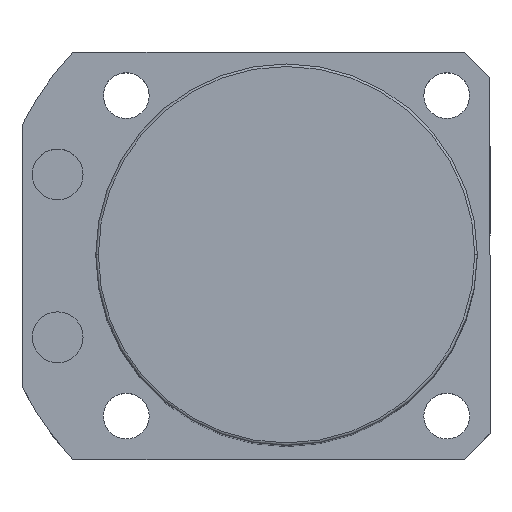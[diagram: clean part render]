
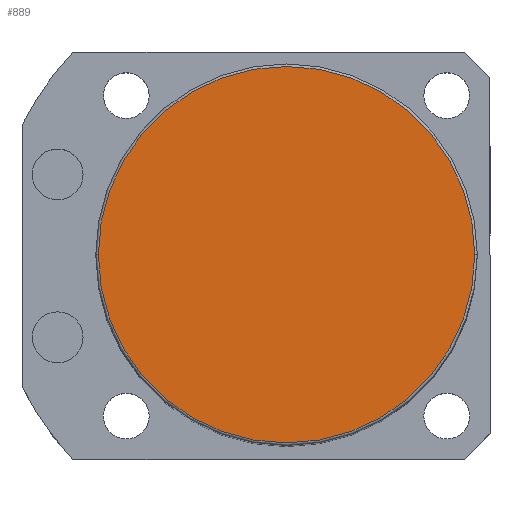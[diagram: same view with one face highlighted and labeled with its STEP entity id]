
A CAD part, top view. The second image highlights one B-rep face of the part: STEP entity #889.
In plain terms, the highlighted planar face has unit normal (0, 0, 1).
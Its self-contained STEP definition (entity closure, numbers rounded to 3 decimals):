
#87 = ORIENTED_EDGE ( 'NONE', *, *, #1120, .T. ) ;
#363 = EDGE_CURVE ( 'NONE', #1824, #1434, #2510, .T. ) ;
#408 = DIRECTION ( 'NONE',  ( 1., 0., 0. ) ) ;
#889 = ADVANCED_FACE ( 'NONE', ( #1950 ), #2269, .T. ) ;
#912 = EDGE_LOOP ( 'NONE', ( #1490, #87 ) ) ;
#964 = CARTESIAN_POINT ( 'NONE',  ( 0., 0., 150.5 ) ) ;
#1057 = CARTESIAN_POINT ( 'NONE',  ( 0., 0., 150.5 ) ) ;
#1084 = DIRECTION ( 'NONE',  ( 0., 0., 1. ) ) ;
#1120 = EDGE_CURVE ( 'NONE', #1434, #1824, #2819, .T. ) ;
#1434 = VERTEX_POINT ( 'NONE', #2511 ) ;
#1490 = ORIENTED_EDGE ( 'NONE', *, *, #363, .T. ) ;
#1513 = DIRECTION ( 'NONE',  ( 0., 0., 1. ) ) ;
#1541 = CARTESIAN_POINT ( 'NONE',  ( 37., 0., 150.5 ) ) ;
#1819 = AXIS2_PLACEMENT_3D ( 'NONE', #964, #2507, #2490 ) ;
#1824 = VERTEX_POINT ( 'NONE', #1541 ) ;
#1950 = FACE_OUTER_BOUND ( 'NONE', #912, .T. ) ;
#2129 = AXIS2_PLACEMENT_3D ( 'NONE', #1057, #1084, #2164 ) ;
#2164 = DIRECTION ( 'NONE',  ( 1., 0., 0. ) ) ;
#2269 = PLANE ( 'NONE',  #1819 ) ;
#2490 = DIRECTION ( 'NONE',  ( 1., 0., 0. ) ) ;
#2507 = DIRECTION ( 'NONE',  ( 0., 0., 1. ) ) ;
#2510 = CIRCLE ( 'NONE', #2820, 37. ) ;
#2511 = CARTESIAN_POINT ( 'NONE',  ( -37., 0., 150.5 ) ) ;
#2617 = CARTESIAN_POINT ( 'NONE',  ( 0., 0., 150.5 ) ) ;
#2819 = CIRCLE ( 'NONE', #2129, 37. ) ;
#2820 = AXIS2_PLACEMENT_3D ( 'NONE', #2617, #1513, #408 ) ;
